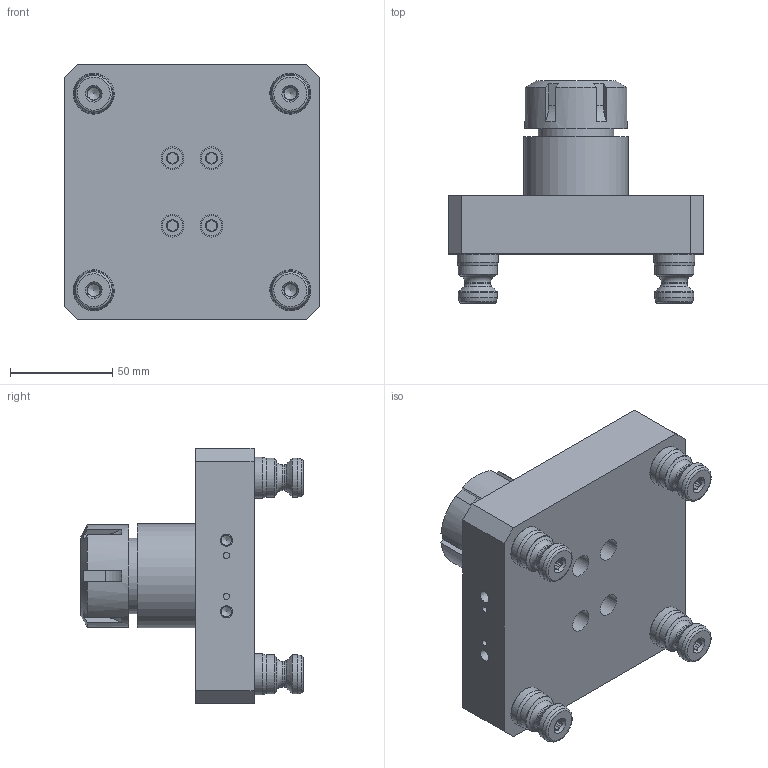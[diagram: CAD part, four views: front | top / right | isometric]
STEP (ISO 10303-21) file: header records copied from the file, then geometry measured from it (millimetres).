
FILE_DESCRIPTION (( 'STEP AP214' ), '1' );
FILE_NAME ('A96-CERX-32_WEBSITE.STEP', '2025-08-11T13:21:15', ( '' ), ( '' ), 'SwSTEP 2.0', 'SolidWorks 2025', '' );
FILE_SCHEMA (( 'AUTOMOTIVE_DESIGN' ));
Length unit declared in the file: millimetre
Products named in the file (10): A96-CERX-32_WEBSITE; D_91290A330_BLACK-OXIDE CLASS 12.9 SOCKET HEAD CAP SCREW_WEBSITE_91290A330; D_PS20F_WEBSITE; D_CERX32-1_WEBSITE; D_CERX32-2_WEBSITE; D_CERX32-3_WEBSITE; A96-CERX-1_WEBSITE; D_M10-1.5 X 25mm.Set Screw_WEBSITE; D_CERX-32_WEBSITE; D_PS20F_WEBSITE_HARD TURN
Assembly tree (15 placements, depth 3):
  A96-CERX-32_WEBSITE
    D_PS20F_WEBSITE  x4
      D_PS20F_WEBSITE_HARD TURN
      D_M10-1.5 X 25mm.Set Screw_WEBSITE
    D_CERX-32_WEBSITE
      D_CERX32-1_WEBSITE
      D_CERX32-3_WEBSITE
      D_CERX32-2_WEBSITE
    A96-CERX-1_WEBSITE
    D_91290A330_BLACK-OXIDE CLASS 12.9 SOCKET HEAD CAP SCREW_WEBSITE_91290A330  x4
Bounding box: 125 x 108.6 x 125.03 mm (x, y, z)
Volume: 542584.3 mm3; surface area: 106962.8 mm2
Topology: 16 solids, 16 shells, 1075 faces, 2675 edges, 1721 vertices
Faces by surface type: plane 634, bspline 144, cylinder 140, cone 125, torus 32
Full cylindrical faces by diameter (mm): 3.03 x2, 5 x6, 5.774 x4, 6 x6, 6.147 x4, 6.756 x4, 8.5 x8, 10 x12, 11.112 x4, 12.497 x4, 15.992 x4, 16.02 x4, 19.012 x8, 19.972 x4, 21 x1, 22 x1, 27.1 x1, 29 x1, 33.81 x1, 36.83 x1, 40 x1, 40.64 x1, 42 x1, 50 x1, 50.8 x1, 50.838 x1
Entity records: 34536 total; most frequent: CARTESIAN_POINT 10419, ORIENTED_EDGE 3956, DIRECTION 3209, EDGE_CURVE 1978, VERTEX_POINT 1347, VECTOR 1239, LINE 1239, AXIS2_PLACEMENT_3D 985
